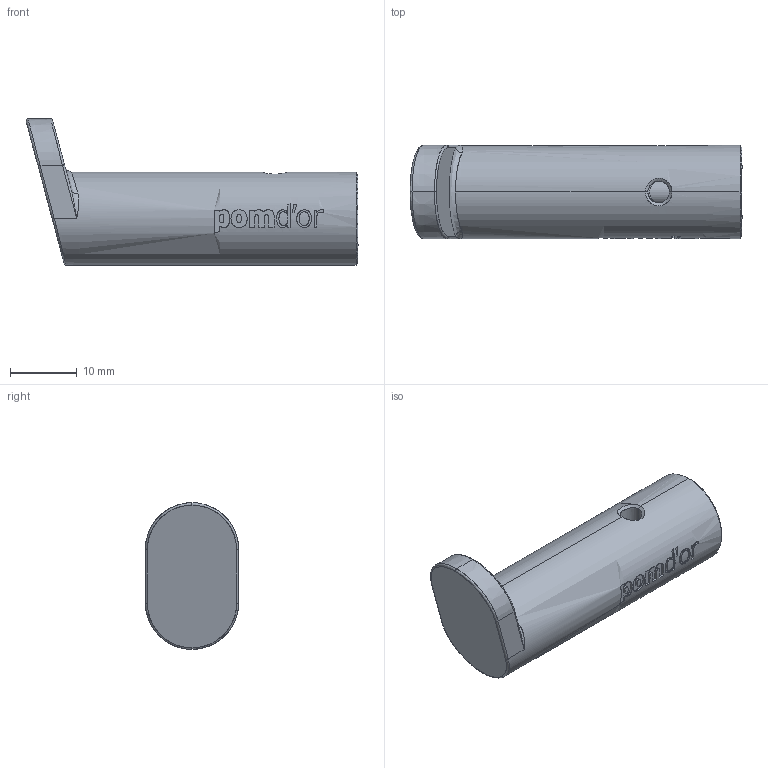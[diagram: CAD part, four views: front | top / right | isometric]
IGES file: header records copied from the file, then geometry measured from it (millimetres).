
Start section: SolidWorks IGES file using analytic representation for surfaces
Global section: file name: G:\Projects\New project\For Marketing\IGS\IGS\2015-12-11\473001002VW.IGS; native system: SolidWorks 2010; preprocessor: SolidWorks 2010; author: weijuan; date: 151207.151318; units: inch
Bounding box: 49.8 x 14 x 22 mm (x, y, z)
Surface area: 3385.6 mm2 (no closed solid volume)
Topology: 0 solids, 0 shells, 127 faces, 1076 edges, 1076 vertices
Faces by surface type: bspline 102, revolution 25
